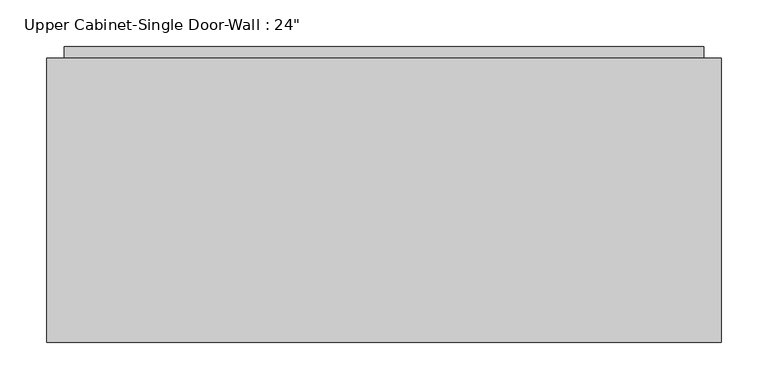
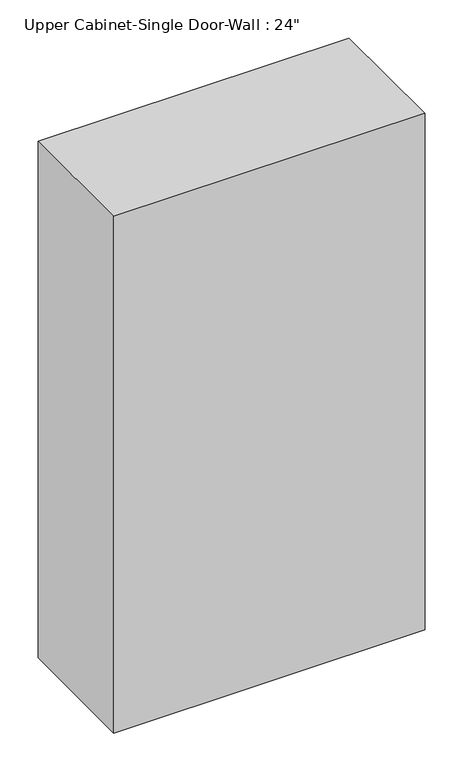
"""IFC4 building model written with IfcOpenShell, lengths in millimetres: furniture geometry."""

from ifc_helpers import new_model, si_unit, frame, origin, place, context, project, spatial, polyline, outline, extrude, faceted_brep, source, transform, mapped, element, save


def furniture_252459a3(model_context):
    return source(origin(), model_context, "Body", "SolidModel", [
        faceted_brep([(-465.5288372, 57.15, 2133.6), (-465.5288372, 57.15, 863.6), (258.3711628, 57.15, 863.6), (258.3711628, 57.15, 2133.6), (-465.5288372, 361.95, 2133.6), (258.3711628, 361.95, 2133.6), (258.3711628, 361.95, 863.6), (-465.5288372, 361.95, 863.6), (-446.4788372, 361.95, 2114.55), (-446.4788372, 361.95, 882.65), (239.3211628, 361.95, 882.65), (239.3211628, 361.95, 2114.55), (239.3211628, 76.2, 2114.55), (-446.4788372, 76.2, 2114.55), (239.3211628, 76.2, 882.65), (-446.4788372, 76.2, 882.65)], [[[0, 1, 2, 3]], [[4, 5, 6, 7], [8, 9, 10, 11]], [[1, 0, 4, 7]], [[2, 1, 7, 6]], [[3, 2, 6, 5]], [[0, 3, 5, 4]], [[8, 11, 12, 13]], [[11, 10, 14, 12]], [[10, 9, 15, 14]], [[9, 8, 13, 15]], [[13, 12, 14, 15]]]),
        extrude(outline(polyline([(-446.4788372, 374.65), (239.3211628, 374.65), (239.3211628, 342.9), (-446.4788372, 342.9), (-446.4788372, 374.65)])), frame((0.0, 0.0, 882.65), z_axis=(0.0, 0.0, 1.0), x_axis=(1.0, 0.0, 0.0)), (0.0, 0.0, 1.0), 1231.9),
    ])


if __name__ == "__main__":
    model = new_model("IFC4")
    model_context = context("Model", 3, world=origin())
    ifc_project = project(units=[si_unit("LENGTHUNIT", "METRE", prefix="MILLI")], contexts=[model_context])
    site = spatial("IfcSite", under=ifc_project)
    building = spatial("IfcBuilding", under=site)
    placement = place(None, origin())
    furniture_shape = furniture_252459a3(model_context)
    element("IfcFurniture", 1, ObjectType="Upper Cabinet-Single Door-Wall : 24\"", at=placement, inside=building, context=model_context, shape_type="MappedRepresentation", body=[
        mapped(furniture_shape, transform((0.0, 0.0, 0.0), x_axis=(1.0, 0.0, 0.0), y_axis=(0.0, 1.0, 0.0), z_axis=(0.0, 0.0, 1.0))),
    ])
    save(model, "model.ifc")
